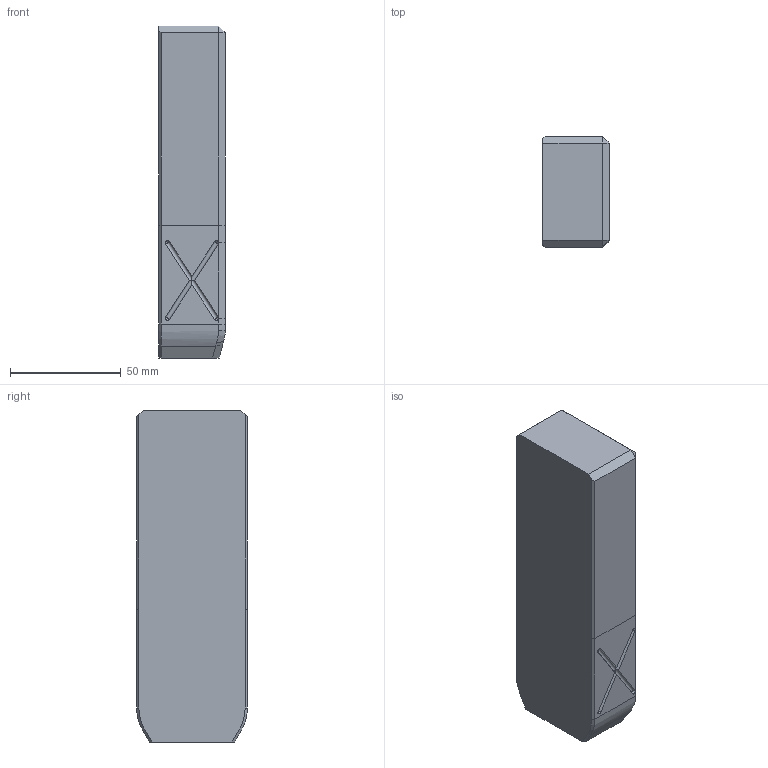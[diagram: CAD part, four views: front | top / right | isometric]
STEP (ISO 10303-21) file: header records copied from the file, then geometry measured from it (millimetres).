
FILE_DESCRIPTION((''),'2;1');
FILE_NAME('','2010-08-30T17:50:35+09:00',('misumi'),(''),'M/STEP i/f 1R2-14','CADmeister v5.1','');
FILE_SCHEMA(('AUTOMOTIVE_DESIGN'));
Length unit declared in the file: millimetre
Products named in the file (1): GW50-60-150
Bounding box: 30 x 50 x 150 mm (x, y, z)
Volume: 220157.9 mm3; surface area: 25864.8 mm2
Topology: 1 solids, 1 shells, 70 faces, 190 edges, 111 vertices
Faces by surface type: plane 35, cylinder 15, revolution 12, bspline 6, cone 2
Entity records: 3342 total; most frequent: CARTESIAN_POINT 810, ORIENTED_EDGE 356, DIRECTION 326, COLOUR_RGB 193, CURVE_STYLE 186, PRESENTATION_STYLE_ASSIGNMENT 185, OVER_RIDING_STYLED_ITEM 184, EDGE_CURVE 178
